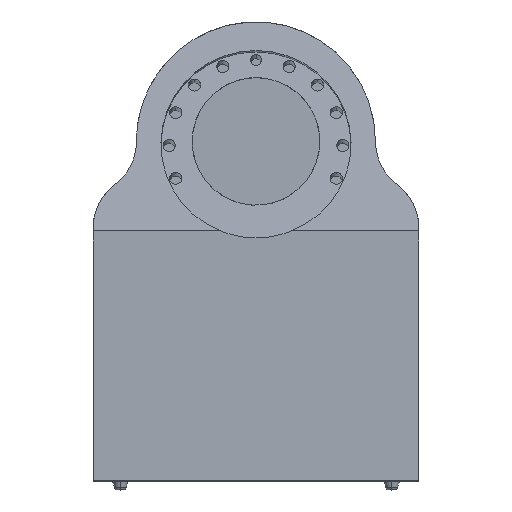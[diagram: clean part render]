
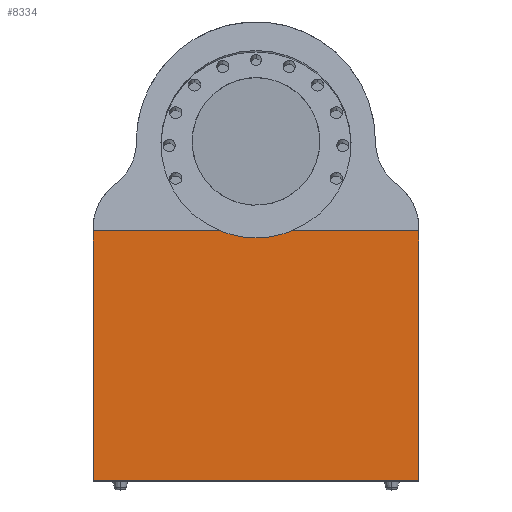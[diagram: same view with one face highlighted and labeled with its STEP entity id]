
A CAD part, top view. The second image highlights one B-rep face of the part: STEP entity #8334.
In plain terms, the highlighted planar face has unit normal (0, 0, 1).
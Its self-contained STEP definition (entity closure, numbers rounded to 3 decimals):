
#35 = CARTESIAN_POINT ( 'NONE',  ( 12.994, -33., 0. ) ) ;
#481 = CARTESIAN_POINT ( 'NONE',  ( 0., -35.54, 0. ) ) ;
#549 = ORIENTED_EDGE ( 'NONE', *, *, #3790, .F. ) ;
#1393 = EDGE_CURVE ( 'NONE', #10741, #9590, #17596, .T. ) ;
#1463 = ORIENTED_EDGE ( 'NONE', *, *, #1393, .F. ) ;
#1725 = LINE ( 'NONE', #12503, #9278 ) ;
#1922 =( BOUNDED_CURVE ( )  B_SPLINE_CURVE ( 3, ( #12535, #9571, #10938, #4371 ),
 .UNSPECIFIED., .F., .T. ) 
 B_SPLINE_CURVE_WITH_KNOTS ( ( 4, 4 ),
 ( 3.142, 3.522 ),
 .UNSPECIFIED. ) 
 CURVE ( )  GEOMETRIC_REPRESENTATION_ITEM ( )  RATIONAL_B_SPLINE_CURVE ( ( 1., 0.988, 0.988, 1. ) ) 
 REPRESENTATION_ITEM ( '' )  );
#2001 = CARTESIAN_POINT ( 'NONE',  ( -60., -125., 0. ) ) ;
#2341 = CARTESIAN_POINT ( 'NONE',  ( -60., -125., 0. ) ) ;
#2416 = ORIENTED_EDGE ( 'NONE', *, *, #4232, .T. ) ;
#3038 = DIRECTION ( 'NONE',  ( 0., 1., 0. ) ) ;
#3600 = LINE ( 'NONE', #2001, #6704 ) ;
#3776 = VERTEX_POINT ( 'NONE', #35 ) ;
#3790 = EDGE_CURVE ( 'NONE', #3776, #5585, #4265, .T. ) ;
#3959 = PLANE ( 'NONE',  #9337 ) ;
#4218 = DIRECTION ( 'NONE',  ( 1., 0., 0. ) ) ;
#4232 = EDGE_CURVE ( 'NONE', #6481, #13286, #3600, .T. ) ;
#4265 = LINE ( 'NONE', #5544, #8686 ) ;
#4371 = CARTESIAN_POINT ( 'NONE',  ( 12.994, -33., 0. ) ) ;
#4469 = VECTOR ( 'NONE', #14892, 1000. ) ;
#4480 = CARTESIAN_POINT ( 'NONE',  ( -12.994, -33., 0. ) ) ;
#5367 = EDGE_LOOP ( 'NONE', ( #1463, #8372, #8139, #2416, #17315, #549, #17025 ) ) ;
#5442 = EDGE_CURVE ( 'NONE', #13286, #5585, #1725, .T. ) ;
#5544 = CARTESIAN_POINT ( 'NONE',  ( -60., -33., 0. ) ) ;
#5585 = VERTEX_POINT ( 'NONE', #16014 ) ;
#5899 = CARTESIAN_POINT ( 'NONE',  ( -8.848, -34.683, 0. ) ) ;
#6481 = VERTEX_POINT ( 'NONE', #2341 ) ;
#6704 = VECTOR ( 'NONE', #14396, 1000. ) ;
#7281 = CARTESIAN_POINT ( 'NONE',  ( -12.994, -33., 0. ) ) ;
#7372 = CARTESIAN_POINT ( 'NONE',  ( -4.464, -35.54, 0. ) ) ;
#8139 = ORIENTED_EDGE ( 'NONE', *, *, #10110, .T. ) ;
#8334 = ADVANCED_FACE ( 'NONE', ( #10792 ), #3959, .T. ) ;
#8372 = ORIENTED_EDGE ( 'NONE', *, *, #10281, .F. ) ;
#8477 = CARTESIAN_POINT ( 'NONE',  ( 0., -35.54, 0. ) ) ;
#8514 = CARTESIAN_POINT ( 'NONE',  ( 64., 0., 0. ) ) ;
#8652 = VERTEX_POINT ( 'NONE', #9786 ) ;
#8686 = VECTOR ( 'NONE', #11018, 1000. ) ;
#8693 = CARTESIAN_POINT ( 'NONE',  ( -60., -32., 0. ) ) ;
#9278 = VECTOR ( 'NONE', #3038, 1000. ) ;
#9337 = AXIS2_PLACEMENT_3D ( 'NONE', #8514, #15441, #4218 ) ;
#9406 = CARTESIAN_POINT ( 'NONE',  ( -60., -33., 0. ) ) ;
#9571 = CARTESIAN_POINT ( 'NONE',  ( 4.464, -35.54, 0. ) ) ;
#9590 = VERTEX_POINT ( 'NONE', #8477 ) ;
#9786 = CARTESIAN_POINT ( 'NONE',  ( -60., -33., 0. ) ) ;
#10110 = EDGE_CURVE ( 'NONE', #8652, #6481, #16698, .T. ) ;
#10281 = EDGE_CURVE ( 'NONE', #8652, #10741, #14974, .T. ) ;
#10741 = VERTEX_POINT ( 'NONE', #4480 ) ;
#10792 = FACE_OUTER_BOUND ( 'NONE', #5367, .T. ) ;
#10938 = CARTESIAN_POINT ( 'NONE',  ( 8.848, -34.683, 0. ) ) ;
#11018 = DIRECTION ( 'NONE',  ( 1., 0., 0. ) ) ;
#12503 = CARTESIAN_POINT ( 'NONE',  ( 60., -32., 0. ) ) ;
#12535 = CARTESIAN_POINT ( 'NONE',  ( 0., -35.54, 0. ) ) ;
#13286 = VERTEX_POINT ( 'NONE', #16273 ) ;
#13721 = VECTOR ( 'NONE', #15535, 1000. ) ;
#14396 = DIRECTION ( 'NONE',  ( 1., 0., 0. ) ) ;
#14892 = DIRECTION ( 'NONE',  ( 1., 0., 0. ) ) ;
#14974 = LINE ( 'NONE', #9406, #4469 ) ;
#15441 = DIRECTION ( 'NONE',  ( 0., 0., 1. ) ) ;
#15535 = DIRECTION ( 'NONE',  ( 0., -1., 0. ) ) ;
#16014 = CARTESIAN_POINT ( 'NONE',  ( 60., -33., 0. ) ) ;
#16273 = CARTESIAN_POINT ( 'NONE',  ( 60., -125., 0. ) ) ;
#16698 = LINE ( 'NONE', #8693, #13721 ) ;
#17025 = ORIENTED_EDGE ( 'NONE', *, *, #17796, .F. ) ;
#17315 = ORIENTED_EDGE ( 'NONE', *, *, #5442, .T. ) ;
#17596 =( BOUNDED_CURVE ( )  B_SPLINE_CURVE ( 3, ( #7281, #5899, #7372, #481 ),
 .UNSPECIFIED., .F., .T. ) 
 B_SPLINE_CURVE_WITH_KNOTS ( ( 4, 4 ),
 ( 2.761, 3.142 ),
 .UNSPECIFIED. ) 
 CURVE ( )  GEOMETRIC_REPRESENTATION_ITEM ( )  RATIONAL_B_SPLINE_CURVE ( ( 1., 0.988, 0.988, 1. ) ) 
 REPRESENTATION_ITEM ( '' )  );
#17796 = EDGE_CURVE ( 'NONE', #9590, #3776, #1922, .T. ) ;
